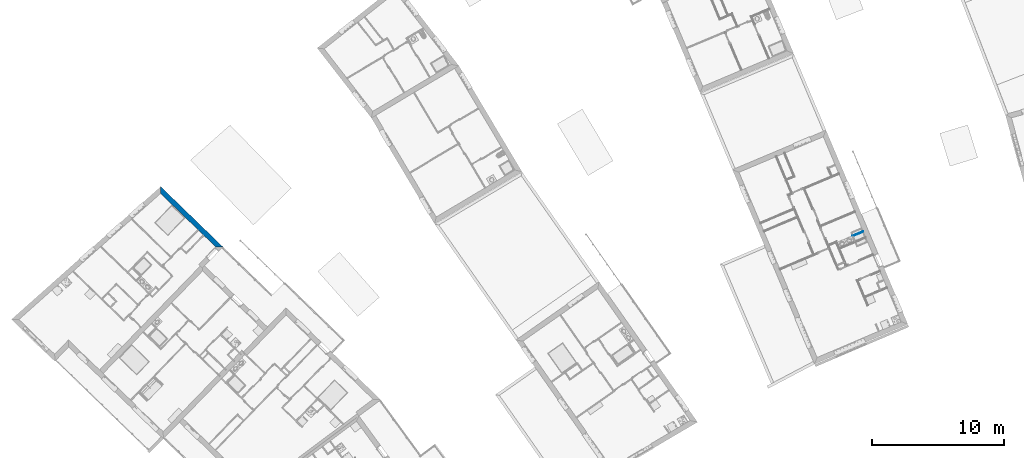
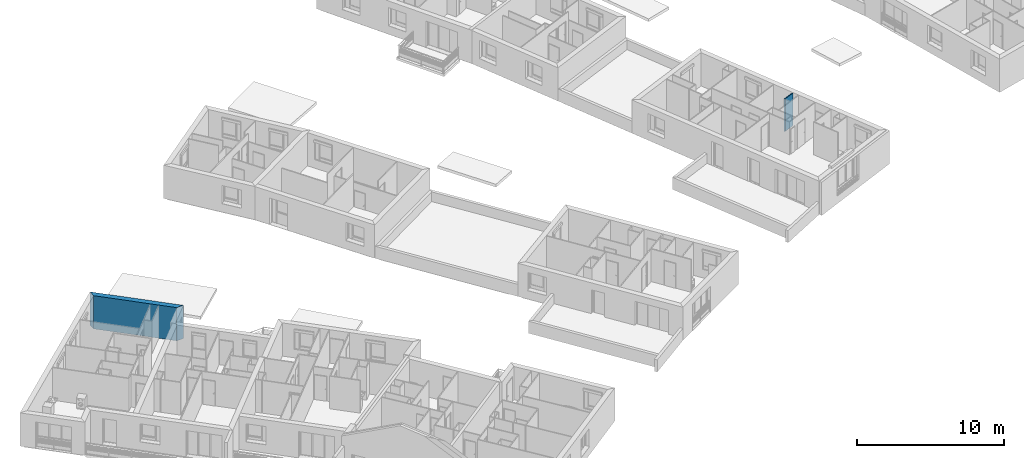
# One storey, part 38 of 121: 2 walls.
"""IFC2X3 building model written with IfcOpenShell, lengths in metres."""

from ifc_helpers import new_model, entity, si_unit, converted_unit, derived_unit, money_unit, direction, frame, origin_with_axes, place, context, subcontext, project, spatial, polyline, outline, extrude, material, layer, layer_set, layer_usage, type_object, element, save


model = new_model("IFC2X3")

# Units and contexts
model_context = context("Model", 3, precision=1e-05, world=origin_with_axes(), true_north=direction((0.0, 1.0)))
body_context = subcontext(model_context, "Body", "Model", "MODEL_VIEW")
ifc_project = project(units=[si_unit("LENGTHUNIT", "METRE"), si_unit("AREAUNIT", "SQUARE_METRE"), si_unit("VOLUMEUNIT", "CUBIC_METRE"), converted_unit("PLANEANGLEUNIT", "DEGREE", entity("IfcPlaneAngleMeasure", 0.0174532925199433), si_unit("PLANEANGLEUNIT", "RADIAN"), dimensions=[0, 0, 0, 0, 0, 0, 0]), money_unit("CHF"), converted_unit("TIMEUNIT", "Year", entity("IfcTimeMeasure", 31557600.0), si_unit("TIMEUNIT", "SECOND"), dimensions=[0, 0, 1, 0, 0, 0, 0]), si_unit("MASSUNIT", "GRAM", prefix="KILO"), si_unit("THERMODYNAMICTEMPERATUREUNIT", "DEGREE_CELSIUS"), si_unit("LUMINOUSINTENSITYUNIT", "LUMEN"), si_unit("ENERGYUNIT", "JOULE", prefix="MEGA"), derived_unit("THERMALCONDUCTANCEUNIT", [(si_unit("POWERUNIT", "WATT"), 1), (si_unit("LENGTHUNIT", "METRE"), -1), (si_unit("THERMODYNAMICTEMPERATUREUNIT", "KELVIN"), -1)]), derived_unit("SPECIFICHEATCAPACITYUNIT", [(si_unit("ENERGYUNIT", "JOULE"), 1), (si_unit("MASSUNIT", "GRAM", prefix="KILO"), -1), (si_unit("THERMODYNAMICTEMPERATUREUNIT", "KELVIN"), -1)]), derived_unit("MASSDENSITYUNIT", [(si_unit("MASSUNIT", "GRAM", prefix="KILO"), 1), (si_unit("VOLUMEUNIT", "CUBIC_METRE"), -1)])], contexts=[model_context])

# Site, building, storey
site_placement = place(None, origin_with_axes())
site = spatial("IfcSite", under=ifc_project, at=site_placement, Name="Site", CompositionType="ELEMENT")
building_placement = place(site_placement, origin_with_axes())
building = spatial("IfcBuilding", under=site, at=building_placement, Name="Bâtiment", CompositionType="ELEMENT")
storey_placement = place(building_placement, frame((0.0, 0.0, 2.75), z_axis=(0.0, 0.0, 1.0), x_axis=(1.0, 0.0, 0.0)))
storey = spatial("IfcBuildingStorey", under=building, at=storey_placement, Name="Etage 1", CompositionType="ELEMENT", Elevation=2.75)

# Walls
ifc_material_1 = material(Name="Hachure solide 268963992")
ifc_layer_1 = layer(ifc_material_1, 0.07, ventilated="UNKNOWN")
ifc_layer_set_1 = layer_set([ifc_layer_1], Name="Cloison 70 0826278243")
ifc_layer_usage_1 = layer_usage(ifc_layer_set_1, "AXIS2", "POSITIVE", 0.0)
wall_type_1 = type_object("IfcWallType", Name="Cloison 70 0826278243 70", PredefinedType="NOTDEFINED")
wall_1_placement = place(storey_placement, frame((9574.854023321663, -1056.139419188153, 57.7), z_axis=(0.0, 0.0, 1.0), x_axis=(0.9214205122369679, 0.3885669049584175, 0.0)))
element("IfcWallStandardCase", 1, at=wall_1_placement, inside=storey, type_object=wall_type_1, material=ifc_layer_usage_1, Name="Mur-149", context=body_context, shape_type="SweptSolid", body=[
    extrude(outline(polyline([(0.0, 0.0), (0.8300000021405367, 0.0), (0.8300000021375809, 0.06999999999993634), (-0.06999999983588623, 0.06999999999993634), (0.0, 0.0)])), origin_with_axes(), (0.0, 0.0, 1.0), 2.7),
])
ifc_material_2 = material(Name="Parpaing 312445824")
ifc_layer_2 = layer(ifc_material_2, 0.22, ventilated="UNKNOWN")
ifc_material_3 = material(Name="Isolant styromousse 301821074")
ifc_layer_3 = layer(ifc_material_3, 0.16, ventilated="UNKNOWN")
ifc_layer_set_2 = layer_set([ifc_layer_2, ifc_layer_3], Name="isol int 22+16 0836643197")
ifc_layer_usage_2 = layer_usage(ifc_layer_set_2, "AXIS2", "NEGATIVE", 0.0)
wall_type_2 = type_object("IfcWallType", Name="isol int 22+16 0836643197 380", PredefinedType="NOTDEFINED")
wall_2_placement = place(storey_placement, frame((9522.52805632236, -1052.392567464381, 57.7), z_axis=(0.0, 0.0, 1.0), x_axis=(0.718176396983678, -0.6958610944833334, 0.0)))
element("IfcWallStandardCase", 2, at=wall_2_placement, inside=storey, type_object=wall_type_2, material=ifc_layer_usage_2, Name="Mur-113", context=body_context, shape_type="SweptSolid", body=[
    extrude(outline(polyline([(0.3528683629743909, -0.3800000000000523), (6.160778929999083, -0.3800000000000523), (6.540778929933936, 0.0), (0.0, 0.0), (0.3528683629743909, -0.3800000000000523)])), origin_with_axes(), (0.0, 0.0, 1.0), 2.75),
])

save(model, "model.ifc")
